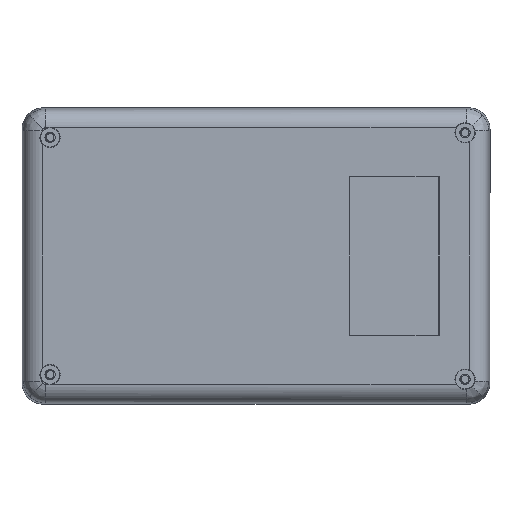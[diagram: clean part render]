
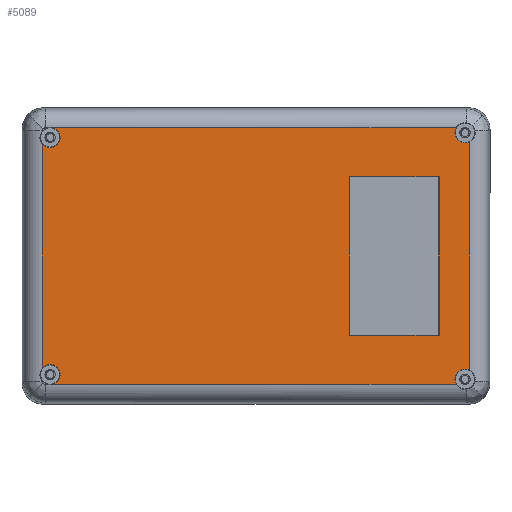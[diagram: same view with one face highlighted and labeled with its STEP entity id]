
A CAD part, front view. The second image highlights one B-rep face of the part: STEP entity #5089.
In plain terms, the highlighted planar face has unit normal (0, -1, 0).
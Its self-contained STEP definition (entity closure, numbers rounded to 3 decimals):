
#51 = DIRECTION ( 'NONE',  ( 0., 0., -1. ) ) ;
#55 = ORIENTED_EDGE ( 'NONE', *, *, #7059, .T. ) ;
#78 = AXIS2_PLACEMENT_3D ( 'NONE', #6830, #1257, #6188 ) ;
#92 = EDGE_CURVE ( 'NONE', #3215, #3577, #2293, .T. ) ;
#201 = ORIENTED_EDGE ( 'NONE', *, *, #1019, .F. ) ;
#276 = CARTESIAN_POINT ( 'NONE',  ( 58.7, -14., -25.4 ) ) ;
#328 = CARTESIAN_POINT ( 'NONE',  ( 64.156, -14., 41.073 ) ) ;
#484 = EDGE_CURVE ( 'NONE', #1254, #7031, #3360, .T. ) ;
#485 = ORIENTED_EDGE ( 'NONE', *, *, #6764, .T. ) ;
#507 = EDGE_CURVE ( 'NONE', #9925, #9578, #2566, .T. ) ;
#535 = EDGE_CURVE ( 'NONE', #7031, #9925, #916, .T. ) ;
#610 = VERTEX_POINT ( 'NONE', #7398 ) ;
#654 = CARTESIAN_POINT ( 'NONE',  ( -68.573, -14., -39.776 ) ) ;
#675 = EDGE_CURVE ( 'NONE', #6147, #9246, #3137, .T. ) ;
#764 = CARTESIAN_POINT ( 'NONE',  ( -68.573, -14., -36.014 ) ) ;
#916 = LINE ( 'NONE', #9985, #5668 ) ;
#980 = EDGE_LOOP ( 'NONE', ( #1343, #5730, #1073, #1358 ) ) ;
#1019 = EDGE_CURVE ( 'NONE', #3577, #6755, #9061, .T. ) ;
#1031 = LINE ( 'NONE', #9936, #8187 ) ;
#1051 = CARTESIAN_POINT ( 'NONE',  ( 68.573, -14., 39.776 ) ) ;
#1073 = ORIENTED_EDGE ( 'NONE', *, *, #4419, .F. ) ;
#1149 = CARTESIAN_POINT ( 'NONE',  ( 58.7, -14., -25.4 ) ) ;
#1254 = VERTEX_POINT ( 'NONE', #3112 ) ;
#1257 = DIRECTION ( 'NONE',  ( 0., 1., 0. ) ) ;
#1313 = FACE_BOUND ( 'NONE', #980, .T. ) ;
#1343 = ORIENTED_EDGE ( 'NONE', *, *, #535, .F. ) ;
#1358 = ORIENTED_EDGE ( 'NONE', *, *, #507, .F. ) ;
#1400 = AXIS2_PLACEMENT_3D ( 'NONE', #4299, #10272, #5886 ) ;
#1482 = DIRECTION ( 'NONE',  ( 0., -1., 0. ) ) ;
#1624 = CARTESIAN_POINT ( 'NONE',  ( 58.7, -14., 25.4 ) ) ;
#1659 = VERTEX_POINT ( 'NONE', #3335 ) ;
#2027 = EDGE_CURVE ( 'NONE', #9175, #610, #9708, .T. ) ;
#2175 = DIRECTION ( 'NONE',  ( 0., -1., 0. ) ) ;
#2253 = EDGE_LOOP ( 'NONE', ( #485, #6355, #3252, #2417, #201, #4980, #10453, #6839, #8407, #55, #2495, #4060 ) ) ;
#2293 = CIRCLE ( 'NONE', #5164, 3.25 ) ;
#2324 = LINE ( 'NONE', #6236, #8375 ) ;
#2336 = DIRECTION ( 'NONE',  ( 0., -1., 0. ) ) ;
#2417 = ORIENTED_EDGE ( 'NONE', *, *, #5049, .T. ) ;
#2455 = CARTESIAN_POINT ( 'NONE',  ( 68.573, -14., -36.656 ) ) ;
#2465 = DIRECTION ( 'NONE',  ( 0., 0., -1. ) ) ;
#2495 = ORIENTED_EDGE ( 'NONE', *, *, #6281, .F. ) ;
#2514 = DIRECTION ( 'NONE',  ( 0., 0., 1. ) ) ;
#2566 = LINE ( 'NONE', #276, #3473 ) ;
#2680 = AXIS2_PLACEMENT_3D ( 'NONE', #6198, #2175, #7107 ) ;
#2714 = EDGE_CURVE ( 'NONE', #1659, #8236, #10128, .T. ) ;
#2784 = VECTOR ( 'NONE', #3375, 1000. ) ;
#2799 = VECTOR ( 'NONE', #5103, 1000. ) ;
#2906 = PLANE ( 'NONE',  #78 ) ;
#3093 = DIRECTION ( 'NONE',  ( 0., 0., -1. ) ) ;
#3112 = CARTESIAN_POINT ( 'NONE',  ( 30., -14., 25.4 ) ) ;
#3137 = CIRCLE ( 'NONE', #4989, 3.25 ) ;
#3215 = VERTEX_POINT ( 'NONE', #328 ) ;
#3225 = DIRECTION ( 'NONE',  ( 0., -1., 0. ) ) ;
#3252 = ORIENTED_EDGE ( 'NONE', *, *, #675, .F. ) ;
#3335 = CARTESIAN_POINT ( 'NONE',  ( -66., -14., 34.75 ) ) ;
#3360 = LINE ( 'NONE', #6536, #2799 ) ;
#3375 = DIRECTION ( 'NONE',  ( -1., 0., 0. ) ) ;
#3473 = VECTOR ( 'NONE', #2514, 1000. ) ;
#3577 = VERTEX_POINT ( 'NONE', #9801 ) ;
#3663 = VERTEX_POINT ( 'NONE', #5603 ) ;
#3667 = CARTESIAN_POINT ( 'NONE',  ( 67., -14., -36.25 ) ) ;
#3779 = CIRCLE ( 'NONE', #1400, 3.25 ) ;
#3853 = DIRECTION ( 'NONE',  ( 0., 0., -1. ) ) ;
#4060 = ORIENTED_EDGE ( 'NONE', *, *, #2027, .F. ) ;
#4228 = DIRECTION ( 'NONE',  ( 0., 0., -1. ) ) ;
#4285 = DIRECTION ( 'NONE',  ( 0., 0., 1. ) ) ;
#4299 = CARTESIAN_POINT ( 'NONE',  ( -66., -14., -38. ) ) ;
#4332 = EDGE_CURVE ( 'NONE', #3215, #8236, #2324, .T. ) ;
#4419 = EDGE_CURVE ( 'NONE', #9578, #1254, #6552, .T. ) ;
#4441 = FACE_OUTER_BOUND ( 'NONE', #2253, .T. ) ;
#4517 = CIRCLE ( 'NONE', #6538, 3.25 ) ;
#4694 = CARTESIAN_POINT ( 'NONE',  ( 67., -14., -39.5 ) ) ;
#4980 = ORIENTED_EDGE ( 'NONE', *, *, #92, .F. ) ;
#4989 = AXIS2_PLACEMENT_3D ( 'NONE', #4694, #8631, #7937 ) ;
#5049 = EDGE_CURVE ( 'NONE', #6147, #6755, #8284, .T. ) ;
#5089 = ADVANCED_FACE ( 'NONE', ( #1313, #4441 ), #2906, .F. ) ;
#5103 = DIRECTION ( 'NONE',  ( 0., 0., -1. ) ) ;
#5164 = AXIS2_PLACEMENT_3D ( 'NONE', #8169, #1482, #51 ) ;
#5249 = CARTESIAN_POINT ( 'NONE',  ( -64.941, -14., -41.073 ) ) ;
#5295 = VECTOR ( 'NONE', #3093, 1000. ) ;
#5325 = CARTESIAN_POINT ( 'NONE',  ( 67., -14., -39.5 ) ) ;
#5603 = CARTESIAN_POINT ( 'NONE',  ( 64.156, -14., -41.073 ) ) ;
#5608 = DIRECTION ( 'NONE',  ( 0., 0., -1. ) ) ;
#5623 = CARTESIAN_POINT ( 'NONE',  ( 30., -14., -25.4 ) ) ;
#5668 = VECTOR ( 'NONE', #9045, 1000. ) ;
#5730 = ORIENTED_EDGE ( 'NONE', *, *, #484, .F. ) ;
#5793 = DIRECTION ( 'NONE',  ( 1., 0., 0. ) ) ;
#5842 = CARTESIAN_POINT ( 'NONE',  ( -66., -14., 38. ) ) ;
#5870 = EDGE_CURVE ( 'NONE', #7095, #1659, #7526, .T. ) ;
#5886 = DIRECTION ( 'NONE',  ( 0., 0., -1. ) ) ;
#6147 = VERTEX_POINT ( 'NONE', #2455 ) ;
#6188 = DIRECTION ( 'NONE',  ( 0., 0., 1. ) ) ;
#6198 = CARTESIAN_POINT ( 'NONE',  ( -66., -14., 38. ) ) ;
#6236 = CARTESIAN_POINT ( 'NONE',  ( -67.276, -14., 41.073 ) ) ;
#6279 = DIRECTION ( 'NONE',  ( 0., -1., 0. ) ) ;
#6281 = EDGE_CURVE ( 'NONE', #610, #7805, #3779, .T. ) ;
#6335 = AXIS2_PLACEMENT_3D ( 'NONE', #9546, #2336, #5608 ) ;
#6355 = ORIENTED_EDGE ( 'NONE', *, *, #7725, .F. ) ;
#6487 = CARTESIAN_POINT ( 'NONE',  ( 68.573, -14., 36.656 ) ) ;
#6536 = CARTESIAN_POINT ( 'NONE',  ( 30., -14., -25.4 ) ) ;
#6538 = AXIS2_PLACEMENT_3D ( 'NONE', #5325, #6279, #3853 ) ;
#6552 = LINE ( 'NONE', #1624, #2784 ) ;
#6638 = CARTESIAN_POINT ( 'NONE',  ( -68.573, -14., 36.014 ) ) ;
#6755 = VERTEX_POINT ( 'NONE', #6487 ) ;
#6764 = EDGE_CURVE ( 'NONE', #9175, #3663, #1031, .T. ) ;
#6830 = CARTESIAN_POINT ( 'NONE',  ( -75., -14., 47.5 ) ) ;
#6839 = ORIENTED_EDGE ( 'NONE', *, *, #2714, .F. ) ;
#7031 = VERTEX_POINT ( 'NONE', #5623 ) ;
#7059 = EDGE_CURVE ( 'NONE', #7095, #7805, #7821, .T. ) ;
#7095 = VERTEX_POINT ( 'NONE', #6638 ) ;
#7107 = DIRECTION ( 'NONE',  ( 0., 0., -1. ) ) ;
#7180 = AXIS2_PLACEMENT_3D ( 'NONE', #5842, #8092, #2465 ) ;
#7398 = CARTESIAN_POINT ( 'NONE',  ( -66., -14., -34.75 ) ) ;
#7526 = CIRCLE ( 'NONE', #7180, 3.25 ) ;
#7725 = EDGE_CURVE ( 'NONE', #9246, #3663, #4517, .T. ) ;
#7805 = VERTEX_POINT ( 'NONE', #764 ) ;
#7821 = LINE ( 'NONE', #654, #5295 ) ;
#7937 = DIRECTION ( 'NONE',  ( 0., 0., -1. ) ) ;
#8026 = CARTESIAN_POINT ( 'NONE',  ( -64.941, -14., 41.073 ) ) ;
#8092 = DIRECTION ( 'NONE',  ( 0., -1., 0. ) ) ;
#8169 = CARTESIAN_POINT ( 'NONE',  ( 67., -14., 39.5 ) ) ;
#8187 = VECTOR ( 'NONE', #5793, 1000. ) ;
#8236 = VERTEX_POINT ( 'NONE', #8026 ) ;
#8284 = LINE ( 'NONE', #1051, #8385 ) ;
#8321 = CARTESIAN_POINT ( 'NONE',  ( -66., -14., -38. ) ) ;
#8375 = VECTOR ( 'NONE', #9486, 1000. ) ;
#8385 = VECTOR ( 'NONE', #4285, 1000. ) ;
#8407 = ORIENTED_EDGE ( 'NONE', *, *, #5870, .F. ) ;
#8631 = DIRECTION ( 'NONE',  ( 0., -1., 0. ) ) ;
#9045 = DIRECTION ( 'NONE',  ( 1., 0., 0. ) ) ;
#9061 = CIRCLE ( 'NONE', #6335, 3.25 ) ;
#9175 = VERTEX_POINT ( 'NONE', #5249 ) ;
#9246 = VERTEX_POINT ( 'NONE', #3667 ) ;
#9486 = DIRECTION ( 'NONE',  ( -1., 0., 0. ) ) ;
#9546 = CARTESIAN_POINT ( 'NONE',  ( 67., -14., 39.5 ) ) ;
#9578 = VERTEX_POINT ( 'NONE', #9908 ) ;
#9708 = CIRCLE ( 'NONE', #9865, 3.25 ) ;
#9801 = CARTESIAN_POINT ( 'NONE',  ( 67., -14., 36.25 ) ) ;
#9865 = AXIS2_PLACEMENT_3D ( 'NONE', #8321, #3225, #4228 ) ;
#9908 = CARTESIAN_POINT ( 'NONE',  ( 58.7, -14., 25.4 ) ) ;
#9925 = VERTEX_POINT ( 'NONE', #1149 ) ;
#9936 = CARTESIAN_POINT ( 'NONE',  ( 67.276, -14., -41.073 ) ) ;
#9985 = CARTESIAN_POINT ( 'NONE',  ( 58.7, -14., -25.4 ) ) ;
#10128 = CIRCLE ( 'NONE', #2680, 3.25 ) ;
#10272 = DIRECTION ( 'NONE',  ( 0., -1., 0. ) ) ;
#10453 = ORIENTED_EDGE ( 'NONE', *, *, #4332, .T. ) ;
